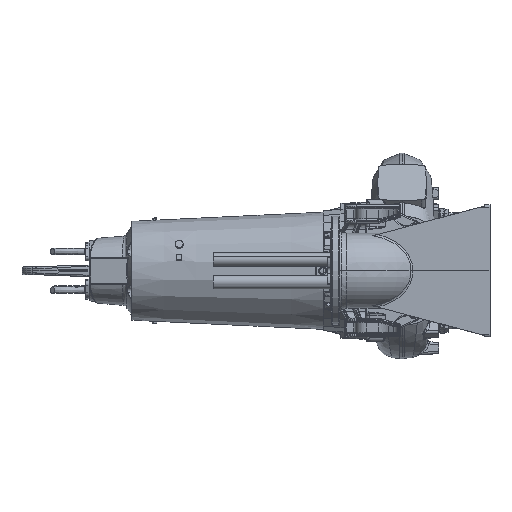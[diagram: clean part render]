
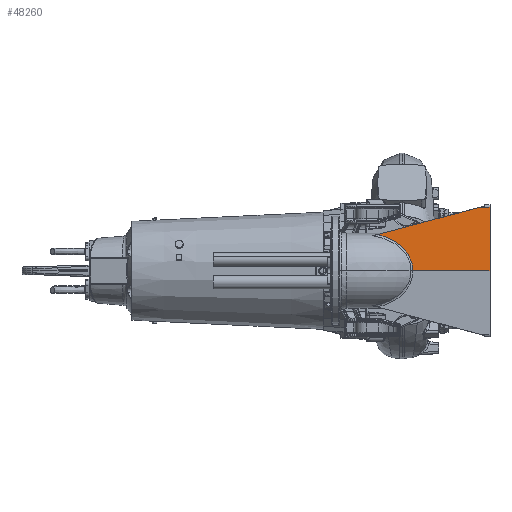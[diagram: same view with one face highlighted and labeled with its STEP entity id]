
A CAD part, left-side view. The second image highlights one B-rep face of the part: STEP entity #48260.
In plain terms, the highlighted planar face has unit normal (-1, 0, 0.018).
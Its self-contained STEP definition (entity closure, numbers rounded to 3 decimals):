
#736 = ORIENTED_EDGE ( 'NONE', *, *, #263859, .T. ) ;
#10890 = EDGE_CURVE ( 'NONE', #158636, #195843, #42248, .T. ) ;
#15266 = DIRECTION ( 'NONE',  ( 0.017, 0., 1. ) ) ;
#20184 = CARTESIAN_POINT ( 'NONE',  ( -562.983, 213.326, 119.128 ) ) ;
#21185 = CARTESIAN_POINT ( 'NONE',  ( -563.964, 164.58, 62.889 ) ) ;
#21752 = VECTOR ( 'NONE', #101846, 1000. ) ;
#22158 = CARTESIAN_POINT ( 'NONE',  ( -565.062, 149.706, 0. ) ) ;
#35174 = CARTESIAN_POINT ( 'NONE',  ( -565.062, -177.349, 0. ) ) ;
#37356 = CARTESIAN_POINT ( 'NONE',  ( -565.062, -190.349, 0. ) ) ;
#42187 = CARTESIAN_POINT ( 'NONE',  ( -562.373, 284.756, 154.029 ) ) ;
#42248 = LINE ( 'NONE', #104409, #271036 ) ;
#43159 = CARTESIAN_POINT ( 'NONE',  ( -563.267, 194.405, 102.85 ) ) ;
#44138 = CARTESIAN_POINT ( 'NONE',  ( -564.202, 158.474, 49.263 ) ) ;
#48260 = ADVANCED_FACE ( 'NONE', ( #181633 ), #196987, .T. ) ;
#54601 = ORIENTED_EDGE ( 'NONE', *, *, #168061, .T. ) ;
#65162 = CARTESIAN_POINT ( 'NONE',  ( -562.553, 256.788, 143.76 ) ) ;
#66142 = CARTESIAN_POINT ( 'NONE',  ( -563.426, 185.814, 93.741 ) ) ;
#67127 = CARTESIAN_POINT ( 'NONE',  ( -564.327, 156.045, 42.12 ) ) ;
#67995 = VECTOR ( 'NONE', #194995, 1000. ) ;
#69522 = ORIENTED_EDGE ( 'NONE', *, *, #10890, .T. ) ;
#73338 = ORIENTED_EDGE ( 'NONE', *, *, #100635, .T. ) ;
#88153 = CARTESIAN_POINT ( 'NONE',  ( -562.705, 238.94, 135.004 ) ) ;
#89141 = CARTESIAN_POINT ( 'NONE',  ( -563.51, 181.753, 88.925 ) ) ;
#90107 = CARTESIAN_POINT ( 'NONE',  ( -564.39, 154.934, 38.493 ) ) ;
#100635 = EDGE_CURVE ( 'NONE', #195843, #281530, #196877, .T. ) ;
#100782 = AXIS2_PLACEMENT_3D ( 'NONE', #289003, #152119, #15266 ) ;
#101846 = DIRECTION ( 'NONE',  ( 0., 1., 0. ) ) ;
#102830 = CARTESIAN_POINT ( 'NONE',  ( -560.172, -165.349, 280.175 ) ) ;
#104409 = CARTESIAN_POINT ( 'NONE',  ( -565.062, -190.349, 0. ) ) ;
#106348 = CARTESIAN_POINT ( 'NONE',  ( -561.321, 98.426, 214.322 ) ) ;
#110119 = CARTESIAN_POINT ( 'NONE',  ( -560.172, -190.349, 280.175 ) ) ;
#111116 = CARTESIAN_POINT ( 'NONE',  ( -562.792, 230.253, 130.057 ) ) ;
#112101 = CARTESIAN_POINT ( 'NONE',  ( -563.562, 179.396, 85.956 ) ) ;
#113126 = CARTESIAN_POINT ( 'NONE',  ( -564.497, 153.296, 32.393 ) ) ;
#114254 = VECTOR ( 'NONE', #129332, 1000. ) ;
#129332 = DIRECTION ( 'NONE',  ( -0.005, 0.966, -0.259 ) ) ;
#133082 = CARTESIAN_POINT ( 'NONE',  ( -562.325, 294.343, 156.819 ) ) ;
#134069 = CARTESIAN_POINT ( 'NONE',  ( -562.838, 225.974, 127.43 ) ) ;
#135075 = CARTESIAN_POINT ( 'NONE',  ( -563.667, 174.862, 79.926 ) ) ;
#136070 = CARTESIAN_POINT ( 'NONE',  ( -564.712, 150.877, 20.076 ) ) ;
#144008 = VERTEX_POINT ( 'NONE', #187349 ) ;
#152119 = DIRECTION ( 'NONE',  ( -1., 0., 0.017 ) ) ;
#154127 = CARTESIAN_POINT ( 'NONE',  ( -565.062, 149.706, 0. ) ) ;
#157064 = CARTESIAN_POINT ( 'NONE',  ( -562.873, 222.791, 125.393 ) ) ;
#158046 = CARTESIAN_POINT ( 'NONE',  ( -563.888, 166.927, 67.267 ) ) ;
#158636 = VERTEX_POINT ( 'NONE', #37356 ) ;
#159041 = CARTESIAN_POINT ( 'NONE',  ( -564.973, 149.633, 5.069 ) ) ;
#162108 = B_SPLINE_CURVE_WITH_KNOTS ( 'NONE', 3,
 ( #292949, #133082, #42187, #201989, #65162, #224917, #88153, #247929, #111116, #270981, #134069, #293945, #157064, #20184, #180014, #43159, #202971, #66142, #225920, #89141, #248928, #112101, #271965, #135075, #294921, #158046, #21185, #181022, #44138, #203932, #67127, #226926, #90107, #249916, #113126, #272960, #136070, #295904, #159041, #22158 ),
 .UNSPECIFIED., .F., .F.,
 ( 4, 2, 2, 2, 2, 2, 2, 2, 2, 2, 2, 2, 2, 2, 2, 2, 2, 2, 2, 4 ),
 ( 0., 0.03, 0.06, 0.074, 0.082, 0.086, 0.089, 0.119, 0.134, 0.141, 0.145, 0.149, 0.164, 0.179, 0.193, 0.197, 0.201, 0.208, 0.223, 0.238 ),
 .UNSPECIFIED. ) ;
#168061 = EDGE_CURVE ( 'NONE', #144008, #271117, #162108, .T. ) ;
#173363 = DIRECTION ( 'NONE',  ( 0.017, 0., 1. ) ) ;
#173729 = EDGE_CURVE ( 'NONE', #281530, #144008, #175000, .T. ) ;
#175000 = LINE ( 'NONE', #106348, #114254 ) ;
#180014 = CARTESIAN_POINT ( 'NONE',  ( -563.09, 205.417, 112.996 ) ) ;
#181022 = CARTESIAN_POINT ( 'NONE',  ( -564.121, 160.354, 53.887 ) ) ;
#181633 = FACE_OUTER_BOUND ( 'NONE', #269960, .T. ) ;
#187349 = CARTESIAN_POINT ( 'NONE',  ( -562.283, 304.096, 159.213 ) ) ;
#189578 = LINE ( 'NONE', #35174, #67995 ) ;
#194560 = ORIENTED_EDGE ( 'NONE', *, *, #173729, .T. ) ;
#194995 = DIRECTION ( 'NONE',  ( 0., -1., 0. ) ) ;
#195843 = VERTEX_POINT ( 'NONE', #110119 ) ;
#196877 = LINE ( 'NONE', #102830, #21752 ) ;
#196987 = PLANE ( 'NONE',  #100782 ) ;
#201989 = CARTESIAN_POINT ( 'NONE',  ( -562.487, 265.979, 147.499 ) ) ;
#202971 = CARTESIAN_POINT ( 'NONE',  ( -563.329, 190.876, 99.309 ) ) ;
#203932 = CARTESIAN_POINT ( 'NONE',  ( -564.306, 156.437, 43.318 ) ) ;
#224917 = CARTESIAN_POINT ( 'NONE',  ( -562.665, 243.357, 137.3 ) ) ;
#225920 = CARTESIAN_POINT ( 'NONE',  ( -563.459, 184.165, 91.842 ) ) ;
#226926 = CARTESIAN_POINT ( 'NONE',  ( -564.369, 155.294, 39.709 ) ) ;
#247929 = CARTESIAN_POINT ( 'NONE',  ( -562.77, 232.412, 131.323 ) ) ;
#248928 = CARTESIAN_POINT ( 'NONE',  ( -563.527, 180.958, 87.94 ) ) ;
#249916 = CARTESIAN_POINT ( 'NONE',  ( -564.454, 153.908, 34.839 ) ) ;
#263859 = EDGE_CURVE ( 'NONE', #271117, #158636, #189578, .T. ) ;
#269960 = EDGE_LOOP ( 'NONE', ( #69522, #73338, #194560, #54601, #736 ) ) ;
#270981 = CARTESIAN_POINT ( 'NONE',  ( -562.826, 227.04, 128.095 ) ) ;
#271036 = VECTOR ( 'NONE', #173363, 1000. ) ;
#271117 = VERTEX_POINT ( 'NONE', #154127 ) ;
#271233 = CARTESIAN_POINT ( 'NONE',  ( -560.172, -147.34, 280.175 ) ) ;
#271965 = CARTESIAN_POINT ( 'NONE',  ( -563.579, 178.629, 84.957 ) ) ;
#272960 = CARTESIAN_POINT ( 'NONE',  ( -564.625, 151.673, 25.026 ) ) ;
#281530 = VERTEX_POINT ( 'NONE', #271233 ) ;
#289003 = CARTESIAN_POINT ( 'NONE',  ( -560., -177.349, 290. ) ) ;
#292949 = CARTESIAN_POINT ( 'NONE',  ( -562.283, 304.096, 159.213 ) ) ;
#293945 = CARTESIAN_POINT ( 'NONE',  ( -562.861, 223.849, 126.08 ) ) ;
#294921 = CARTESIAN_POINT ( 'NONE',  ( -563.739, 172.067, 75.785 ) ) ;
#295904 = CARTESIAN_POINT ( 'NONE',  ( -564.886, 149.856, 10.098 ) ) ;
